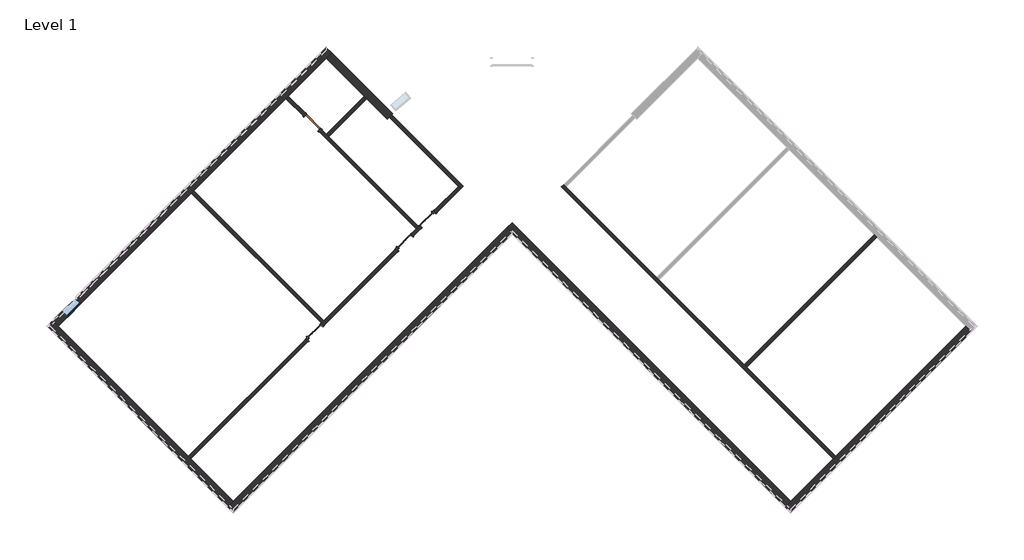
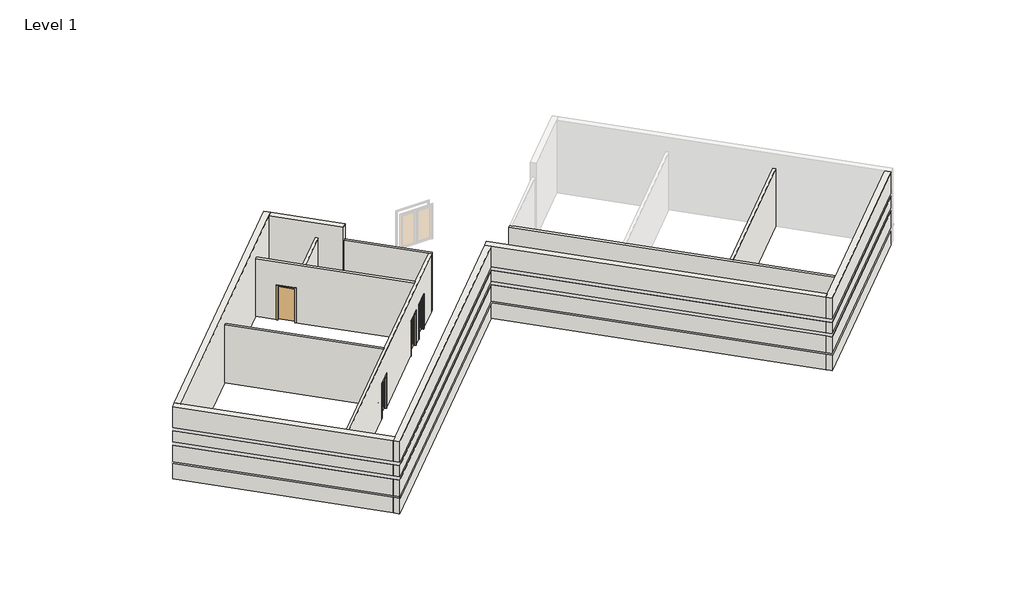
# One storey, part 1 of 2: 13 walls, 4 doors, 1 window.
"""IFC4 building model written with IfcOpenShell, lengths in millimetres."""

from ifc_helpers import new_model, si_unit, frame, origin, origin_with_axes, place, context, project, spatial, polyline, circle_curve, outline, extrude, faceted_brep, transform, mapped, element, save
from ifc_brep_helpers import plane_surface, cylinder_surface, revolved_surface, advanced_brep
from components import door_47956b35, door_87dbb2e6, door_9d26d547, window_15c49d37

model = new_model("IFC4")

# Units and contexts
model_context = context("Model", 3, world=origin())
ifc_project = project(units=[si_unit("LENGTHUNIT", "METRE", prefix="MILLI")], contexts=[model_context])

# Site, building, storey
site = spatial("IfcSite", under=ifc_project)
building = spatial("IfcBuilding", under=site)
storey = spatial("IfcBuildingStorey", under=building, Name="Level 1", Elevation=0.0)

# Doors
placement = place(None, origin())
door_shape = door_47956b35(model_context)
element("IfcDoor", 1, ObjectType="Door-Interior-Single-Full Glass-Wood : 36\" x 84\"", at=placement, inside=storey, context=model_context, shape_type="MappedRepresentation", body=[
    mapped(door_shape, transform((-12030.0168896, -1645.2399237, 0.0), x_axis=(0.7071067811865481, 0.7071067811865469, 0.0), y_axis=(-0.7071067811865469, 0.7071067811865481, 0.0), z_axis=(0.0, 0.0, 1.0))),
])
element("IfcDoor", 2, ObjectType="Door-Interior-Single-Full Glass-Wood : 36\" x 84\"", at=placement, inside=storey, context=model_context, shape_type="MappedRepresentation", body=[
    mapped(door_shape, transform((-7861.0507676, 2523.7261982, 0.0), x_axis=(0.7071067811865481, 0.7071067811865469, 0.0), y_axis=(-0.7071067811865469, 0.7071067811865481, 0.0), z_axis=(0.0, 0.0, 1.0))),
])
door_2_shape = door_87dbb2e6(model_context)
element("IfcDoor", 3, ObjectType="Door-Interior-Single-Full Glass-Wood : 36\" x 84\"", at=placement, inside=storey, context=model_context, shape_type="MappedRepresentation", body=[
    mapped(door_2_shape, transform((-6783.4200331, 3601.3569328, 0.0), x_axis=(-0.7071067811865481, -0.7071067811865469, 0.0), y_axis=(0.7071067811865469, -0.7071067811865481, 0.0), z_axis=(0.0, 0.0, 1.0))),
])
door_3_shape = door_9d26d547(model_context)
element("IfcDoor", 4, ObjectType="Door-Single-Panel : 36\" x 84\"", at=placement, inside=storey, context=model_context, shape_type="MappedRepresentation", body=[
    mapped(door_3_shape, transform((-12135.6526812, 8091.4849933, 0.0), x_axis=(0.7071067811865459, -0.7071067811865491, 0.0), y_axis=(0.7071067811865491, 0.7071067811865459, 0.0), z_axis=(0.0, 0.0, 1.0))),
])

# Walls
element("IfcWall", 5, ObjectType="Exterior - Split Face and CMU on Mtl. Stud", at=placement, inside=storey, context=model_context, shape_type="Brep", body=[
    faceted_brep([(18186.1821115, -1357.9895101, 0.0), (12149.2049342, -7394.9666875, 0.0), (12039.1967967, -7504.974825, 0.0), (10063.54045, -9480.6311716, 0.0), (9814.3383427, -9729.833279, 0.0), (9814.3383427, -9729.833279, 1016.0), (9879.4451996, -9664.7264221, 1016.0), (9879.4451996, -9664.7264221, 1085.85), (9814.3383427, -9729.833279, 1085.85), (9814.3383427, -9729.833279, 2133.6), (9879.4451996, -9664.7264221, 2133.6), (9879.4451996, -9664.7264221, 2336.8), (9814.3383427, -9729.833279, 2336.8), (9814.3383427, -9729.833279, 3048.0), (9879.4451996, -9664.7264221, 3048.0), (9879.4451996, -9664.7264221, 3251.2), (9814.3383427, -9729.833279, 3251.2), (9814.3383427, -9729.833279, 4572.0), (10063.54045, -9480.6311716, 4572.0), (18186.1821115, -1357.9895101, 4572.0), (18435.3842189, -1607.1916175, 4572.0), (10063.54045, -9979.0353863, 4572.0), (10063.54045, -9979.0353863, 3251.2), (18435.3842189, -1607.1916175, 3251.2), (10063.54045, -9979.0353863, 0.0), (18435.3842189, -1607.1916175, 0.0), (18435.3842189, -1607.1916175, 1016.0), (10063.54045, -9979.0353863, 1016.0), (10063.54045, -9979.0353863, 1085.85), (18435.3842189, -1607.1916175, 1085.85), (18435.3842189, -1607.1916175, 2133.6), (10063.54045, -9979.0353863, 2133.6), (10063.54045, -9979.0353863, 2336.8), (18435.3842189, -1607.1916175, 2336.8), (18435.3842189, -1607.1916175, 3048.0), (10063.54045, -9979.0353863, 3048.0), (9998.4335932, -9913.9285294, 0.0), (18370.277362, -1542.0847606, 3251.2), (18370.277362, -1542.0847606, 3048.0), (18370.277362, -1542.0847606, 2336.8), (18370.277362, -1542.0847606, 2133.6), (18370.277362, -1542.0847606, 1085.85), (18370.277362, -1542.0847606, 1016.0), (18370.277362, -1542.0847606, 0.0), (10063.54045, -9848.8216726, 1085.85), (10063.54045, -9848.8216726, 1016.0), (10063.54045, -9848.8216726, 2133.6), (10063.54045, -9848.8216726, 2336.8), (10063.54045, -9848.8216726, 3048.0), (10063.54045, -9848.8216726, 3251.2)], [[[0, 1, 2, 3, 4, 5, 6, 7, 8, 9, 10, 11, 12, 13, 14, 15, 16, 17, 18, 19]], [[20, 21, 22, 23]], [[24, 25, 26, 27]], [[28, 29, 30, 31]], [[32, 33, 34, 35]], [[19, 18, 17, 21, 20]], [[21, 17, 16, 22]], [[4, 36, 24, 27, 5]], [[8, 28, 31, 9]], [[12, 32, 35, 13]], [[0, 19, 20, 23, 37, 38, 34, 33, 39, 40, 30, 29, 41, 42, 26, 25, 43]], [[4, 3, 2, 1, 0, 43, 36]], [[43, 25, 24, 36]], [[7, 44, 41, 29, 28, 8]], [[42, 45, 6, 5, 27, 26]], [[44, 45, 42, 41]], [[45, 44, 7, 6]], [[40, 46, 10, 9, 31, 30]], [[11, 47, 39, 33, 32, 12]], [[47, 46, 40, 39]], [[46, 47, 11, 10]], [[38, 48, 14, 13, 35, 34]], [[15, 49, 37, 23, 22, 16]], [[49, 48, 38, 37]], [[48, 49, 15, 14]]]),
])
element("IfcWall", 6, ObjectType="Exterior - Split Face and CMU on Mtl. Stud", at=placement, inside=storey, context=model_context, shape_type="Brep", body=[
    faceted_brep([(10063.54045, -9480.6311716, 0.0), (-2868.0283643, 3450.9376427, 0.0), (-2868.0283643, 3450.9376427, 4572.0), (10063.54045, -9480.6311716, 4572.0), (9814.3383427, -9729.833279, 4572.0), (-2868.0283643, 2952.533428, 4572.0), (-3117.2304717, 3201.7355354, 4572.0), (-3117.2304717, 3201.7355354, 0.0), (-2868.0283643, 2952.533428, 0.0), (9814.3383427, -9729.833279, 0.0), (9814.3383427, -9729.833279, 1016.0), (-2868.0283643, 2952.533428, 1016.0), (-2933.1352212, 3017.6402849, 1016.0), (-2933.1352212, 3017.6402849, 1085.85), (-2868.0283643, 2952.533428, 1085.85), (9814.3383427, -9729.833279, 1085.85), (9814.3383427, -9729.833279, 2133.6), (-2868.0283643, 2952.533428, 2133.6), (-2933.1352212, 3017.6402849, 2133.6), (-2933.1352212, 3017.6402849, 2336.8), (-2868.0283643, 2952.533428, 2336.8), (9814.3383427, -9729.833279, 2336.8), (9814.3383427, -9729.833279, 3048.0), (-2868.0283643, 2952.533428, 3048.0), (-2933.1352212, 3017.6402849, 3048.0), (-2933.1352212, 3017.6402849, 3251.2), (-2868.0283643, 2952.533428, 3251.2), (9814.3383427, -9729.833279, 3251.2), (-3052.1236148, 3266.8423923, 0.0), (9879.4451996, -9664.7264221, 3251.2), (9879.4451996, -9664.7264221, 3048.0), (9879.4451996, -9664.7264221, 2336.8), (9879.4451996, -9664.7264221, 2133.6), (9879.4451996, -9664.7264221, 1085.85), (9879.4451996, -9664.7264221, 1016.0), (9879.4451996, -9664.7264221, 0.0), (-2868.0283643, 3082.7471418, 1085.85), (-2868.0283643, 3082.7471418, 1016.0), (-2868.0283643, 3082.7471418, 2133.6), (-2868.0283643, 3082.7471418, 2336.8), (-2868.0283643, 3082.7471418, 3048.0), (-2868.0283643, 3082.7471418, 3251.2)], [[[0, 1, 2, 3]], [[4, 5, 6, 7, 8, 9, 10, 11, 12, 13, 14, 15, 16, 17, 18, 19, 20, 21, 22, 23, 24, 25, 26, 27]], [[3, 2, 6, 5, 4]], [[2, 1, 28, 7, 6]], [[0, 3, 4, 27, 29, 30, 22, 21, 31, 32, 16, 15, 33, 34, 10, 9, 35]], [[1, 0, 35, 28]], [[35, 9, 8, 7, 28]], [[13, 36, 33, 15, 14]], [[34, 37, 12, 11, 10]], [[36, 37, 34, 33]], [[37, 36, 13, 12]], [[32, 38, 18, 17, 16]], [[19, 39, 31, 21, 20]], [[39, 38, 32, 31]], [[38, 39, 19, 18]], [[30, 40, 24, 23, 22]], [[25, 41, 29, 27, 26]], [[41, 40, 30, 29]], [[40, 41, 25, 24]]]),
])
element("IfcWall", 7, ObjectType="Exterior - Split Face and CMU on Mtl. Stud", at=placement, inside=storey, context=model_context, shape_type="Brep", body=[
    faceted_brep([(-3117.2304717, 3201.7355354, 4572.0), (-15799.5971786, -9480.6311716, 4572.0), (-16048.799286, -9729.833279, 4572.0), (-15799.5971786, -9979.0353863, 4572.0), (-2868.0283643, 2952.533428, 4572.0), (-3117.2304717, 3201.7355354, 0.0), (-15799.5971786, -9480.6311716, 0.0), (-16048.799286, -9729.833279, 0.0), (-16048.799286, -9729.833279, 1016.0), (-15983.6924291, -9664.7264221, 1016.0), (-15983.6924291, -9664.7264221, 1085.85), (-16048.799286, -9729.833279, 1085.85), (-16048.799286, -9729.833279, 2133.6), (-15983.6924291, -9664.7264221, 2133.6), (-15983.6924291, -9664.7264221, 2336.8), (-16048.799286, -9729.833279, 2336.8), (-16048.799286, -9729.833279, 3048.0), (-15983.6924291, -9664.7264221, 3048.0), (-15983.6924291, -9664.7264221, 3251.2), (-16048.799286, -9729.833279, 3251.2), (-15799.5971786, -9979.0353863, 3251.2), (-2868.0283643, 2952.533428, 3251.2), (-15799.5971786, -9979.0353863, 0.0), (-2868.0283643, 2952.533428, 0.0), (-2868.0283643, 2952.533428, 1016.0), (-15799.5971786, -9979.0353863, 1016.0), (-15799.5971786, -9979.0353863, 1085.85), (-2868.0283643, 2952.533428, 1085.85), (-2868.0283643, 2952.533428, 2133.6), (-15799.5971786, -9979.0353863, 2133.6), (-15799.5971786, -9979.0353863, 2336.8), (-2868.0283643, 2952.533428, 2336.8), (-2868.0283643, 2952.533428, 3048.0), (-15799.5971786, -9979.0353863, 3048.0), (-2933.1352212, 3017.6402849, 0.0), (-15864.7040355, -9913.9285294, 0.0), (-2933.1352212, 3017.6402849, 3251.2), (-2933.1352212, 3017.6402849, 3048.0), (-2933.1352212, 3017.6402849, 2336.8), (-2933.1352212, 3017.6402849, 2133.6), (-2933.1352212, 3017.6402849, 1085.85), (-2933.1352212, 3017.6402849, 1016.0), (-15799.5971786, -9848.8216726, 1085.85), (-15799.5971786, -9848.8216726, 1016.0), (-15799.5971786, -9848.8216726, 2133.6), (-15799.5971786, -9848.8216726, 2336.8), (-15799.5971786, -9848.8216726, 3048.0), (-15799.5971786, -9848.8216726, 3251.2)], [[[0, 1, 2, 3, 4]], [[5, 6, 7, 8, 9, 10, 11, 12, 13, 14, 15, 16, 17, 18, 19, 2, 1, 0]], [[4, 3, 20, 21]], [[22, 23, 24, 25]], [[26, 27, 28, 29]], [[30, 31, 32, 33]], [[7, 6, 5, 34, 35]], [[5, 0, 4, 21, 36, 37, 32, 31, 38, 39, 28, 27, 40, 41, 24, 23, 34]], [[23, 22, 35, 34]], [[3, 2, 19, 20]], [[7, 35, 22, 25, 8]], [[11, 26, 29, 12]], [[15, 30, 33, 16]], [[10, 42, 40, 27, 26, 11]], [[41, 43, 9, 8, 25, 24]], [[42, 43, 41, 40]], [[43, 42, 10, 9]], [[39, 44, 13, 12, 29, 28]], [[14, 45, 38, 31, 30, 15]], [[45, 44, 39, 38]], [[44, 45, 14, 13]], [[37, 46, 17, 16, 33, 32]], [[18, 47, 36, 21, 20, 19]], [[47, 46, 37, 36]], [[46, 47, 18, 17]]]),
])
element("IfcWall", 8, ObjectType="Exterior - Split Face and CMU on Mtl. Stud", at=placement, inside=storey, context=model_context, shape_type="Brep", body=[
    faceted_brep([(-15799.5971786, -9480.6311716, 0.0), (-17775.2535253, -7504.974825, 0.0), (-17885.2616628, -7394.9666875, 0.0), (-23922.2388402, -1357.9895101, 0.0), (-24171.4409475, -1108.7874027, 0.0), (-24171.4409475, -1108.7874027, 1016.0), (-24106.3340906, -1173.8942596, 1016.0), (-24106.3340906, -1173.8942596, 1085.85), (-24171.4409475, -1108.7874027, 1085.85), (-24171.4409475, -1108.7874027, 2133.6), (-24106.3340906, -1173.8942596, 2133.6), (-24106.3340906, -1173.8942596, 2336.8), (-24171.4409475, -1108.7874027, 2336.8), (-24171.4409475, -1108.7874027, 3048.0), (-24106.3340906, -1173.8942596, 3048.0), (-24106.3340906, -1173.8942596, 3251.2), (-24171.4409475, -1108.7874027, 3251.2), (-24171.4409475, -1108.7874027, 4572.0), (-23922.2388402, -1357.9895101, 4572.0), (-15799.5971786, -9480.6311716, 4572.0), (-16048.799286, -9729.833279, 4572.0), (-24420.6430549, -1357.9895101, 4572.0), (-24420.6430549, -1357.9895101, 3251.2), (-16048.799286, -9729.833279, 3251.2), (-24420.6430549, -1357.9895101, 0.0), (-16048.799286, -9729.833279, 0.0), (-16048.799286, -9729.833279, 1016.0), (-24420.6430549, -1357.9895101, 1016.0), (-24420.6430549, -1357.9895101, 1085.85), (-16048.799286, -9729.833279, 1085.85), (-16048.799286, -9729.833279, 2133.6), (-24420.6430549, -1357.9895101, 2133.6), (-24420.6430549, -1357.9895101, 2336.8), (-16048.799286, -9729.833279, 2336.8), (-16048.799286, -9729.833279, 3048.0), (-24420.6430549, -1357.9895101, 3048.0), (-24355.536198, -1292.8826532, 0.0), (-15983.6924291, -9664.7264221, 3251.2), (-15983.6924291, -9664.7264221, 3048.0), (-15983.6924291, -9664.7264221, 2336.8), (-15983.6924291, -9664.7264221, 2133.6), (-15983.6924291, -9664.7264221, 1085.85), (-15983.6924291, -9664.7264221, 1016.0), (-15983.6924291, -9664.7264221, 0.0), (-24290.4293411, -1357.9895101, 1085.85), (-24290.4293411, -1357.9895101, 1016.0), (-24290.4293411, -1357.9895101, 2133.6), (-24290.4293411, -1357.9895101, 2336.8), (-24290.4293411, -1357.9895101, 3048.0), (-24290.4293411, -1357.9895101, 3251.2)], [[[0, 1, 2, 3, 4, 5, 6, 7, 8, 9, 10, 11, 12, 13, 14, 15, 16, 17, 18, 19]], [[20, 21, 22, 23]], [[24, 25, 26, 27]], [[28, 29, 30, 31]], [[32, 33, 34, 35]], [[19, 18, 17, 21, 20]], [[21, 17, 16, 22]], [[4, 36, 24, 27, 5]], [[8, 28, 31, 9]], [[12, 32, 35, 13]], [[0, 19, 20, 23, 37, 38, 34, 33, 39, 40, 30, 29, 41, 42, 26, 25, 43]], [[4, 3, 2, 1, 0, 43, 36]], [[43, 25, 24, 36]], [[7, 44, 41, 29, 28, 8]], [[42, 45, 6, 5, 27, 26]], [[44, 45, 42, 41]], [[45, 44, 7, 6]], [[40, 46, 10, 9, 31, 30]], [[11, 47, 39, 33, 32, 12]], [[47, 46, 40, 39]], [[46, 47, 11, 10]], [[38, 48, 14, 13, 35, 34]], [[15, 49, 37, 23, 22, 16]], [[49, 48, 38, 37]], [[48, 49, 15, 14]]]),
])
element("IfcWall", 9, ObjectType="Exterior - Split Face and CMU on Mtl. Stud", at=placement, inside=storey, context=model_context, shape_type="Brep", body=[
    faceted_brep([(-23922.2388402, -1357.9895101, 4572.0), (-11489.0742405, 11075.1750895, 4572.0), (-11239.8721332, 11324.3771969, 4572.0), (-11489.0742405, 11573.5793042, 4572.0), (-24171.4409475, -1108.7874027, 4572.0), (-23922.2388402, -1357.9895101, 0.0), (-17743.7048466, 4820.5444835, 0.0), (-17633.6967091, 4930.552621, 0.0), (-13359.2125777, 9205.0367523, 0.0), (-13249.2044403, 9315.0448898, 0.0), (-11489.0742405, 11075.1750895, 0.0), (-11239.8721332, 11324.3771969, 0.0), (-11239.8721332, 11324.3771969, 1016.0), (-11304.9789901, 11259.27034, 1016.0), (-11304.9789901, 11259.27034, 1085.85), (-11239.8721332, 11324.3771969, 1085.85), (-11239.8721332, 11324.3771969, 2133.6), (-11304.9789901, 11259.27034, 2133.6), (-11304.9789901, 11259.27034, 2336.8), (-11239.8721332, 11324.3771969, 2336.8), (-11239.8721332, 11324.3771969, 3048.0), (-11304.9789901, 11259.27034, 3048.0), (-11304.9789901, 11259.27034, 3251.2), (-11239.8721332, 11324.3771969, 3251.2), (-23508.0245266, -943.7751965, 914.4), (-23508.0245266, -943.7751965, 2133.6), (-22861.4460859, -297.1967558, 2133.6), (-22861.4460859, -297.1967558, 914.4), (-11489.0742405, 11573.5793042, 3251.2), (-24171.4409475, -1108.7874027, 3251.2), (-11489.0742405, 11573.5793042, 0.0), (-24171.4409475, -1108.7874027, 0.0), (-24171.4409475, -1108.7874027, 1016.0), (-23757.2266339, -694.5730891, 1016.0), (-23757.2266339, -694.5730891, 914.4), (-23110.6481932, -47.9946484, 914.4), (-23110.6481932, -47.9946484, 1016.0), (-11489.0742405, 11573.5793042, 1016.0), (-23110.6481932, -47.9946484, 2133.6), (-23757.2266339, -694.5730891, 2133.6), (-23757.2266339, -694.5730891, 2336.8), (-24171.4409475, -1108.7874027, 2336.8), (-24171.4409475, -1108.7874027, 3048.0), (-11489.0742405, 11573.5793042, 3048.0), (-11489.0742405, 11573.5793042, 2336.8), (-23110.6481932, -47.9946484, 2336.8), (-23757.2266339, -694.5730891, 1085.85), (-24171.4409475, -1108.7874027, 1085.85), (-24171.4409475, -1108.7874027, 2133.6), (-23110.6481932, -47.9946484, 1085.85), (-11489.0742405, 11573.5793042, 2133.6), (-11489.0742405, 11573.5793042, 1085.85), (-24106.3340906, -1173.8942596, 0.0), (-11423.9673837, 11508.4724474, 0.0), (-24106.3340906, -1173.8942596, 3251.2), (-24106.3340906, -1173.8942596, 3048.0), (-24106.3340906, -1173.8942596, 2336.8), (-24106.3340906, -1173.8942596, 2133.6), (-24106.3340906, -1173.8942596, 1085.85), (-24106.3340906, -1173.8942596, 1016.0), (-23692.119777, -759.679946, 1016.0), (-23692.119777, -759.679946, 1085.85), (-23692.119777, -759.679946, 2133.6), (-23045.5413363, -113.1015053, 2133.6), (-23045.5413363, -113.1015053, 1085.85), (-23045.5413363, -113.1015053, 1016.0), (-11489.0742405, 11443.3655905, 1085.85), (-11489.0742405, 11443.3655905, 1016.0), (-23692.119777, -759.679946, 2133.6), (-23692.119777, -759.679946, 2336.8), (-23045.5413363, -113.1015053, 2133.6), (-23045.5413363, -113.1015053, 2336.8), (-11489.0742405, 11443.3655905, 2133.6), (-11489.0742405, 11443.3655905, 2336.8), (-11489.0742405, 11443.3655905, 3048.0), (-11489.0742405, 11443.3655905, 3251.2)], [[[0, 1, 2, 3, 4]], [[5, 6, 7, 8, 9, 10, 11, 12, 13, 14, 15, 16, 17, 18, 19, 20, 21, 22, 23, 2, 1, 0], [24, 25, 26, 27]], [[4, 3, 28, 29]], [[30, 31, 32, 33, 34, 35, 36, 37]], [[38, 39, 40, 41, 42, 43, 44, 45]], [[39, 46, 47, 48]], [[49, 38, 50, 51]], [[11, 10, 9, 8, 7, 6, 5, 52, 53]], [[5, 0, 4, 29, 54, 55, 42, 41, 56, 57, 48, 47, 58, 59, 32, 31, 52]], [[31, 30, 53, 52]], [[3, 2, 23, 28]], [[11, 53, 30, 37, 12]], [[15, 51, 50, 16]], [[19, 44, 43, 20]], [[25, 24, 34, 33, 60, 61, 46, 39, 62]], [[35, 34, 24, 27]], [[27, 26, 63, 38, 49, 64, 65, 36, 35]], [[39, 38, 63, 26, 25, 62]], [[61, 58, 47, 46]], [[59, 60, 33, 32]], [[58, 61, 60, 59]], [[66, 64, 49, 51, 15, 14]], [[65, 67, 13, 12, 37, 36]], [[64, 66, 67, 65]], [[67, 66, 14, 13]], [[68, 39, 48, 57]], [[40, 69, 56, 41]], [[39, 68, 69, 40]], [[69, 68, 57, 56]], [[70, 38, 45, 71]], [[38, 70, 72, 17, 16, 50]], [[70, 71, 73, 72]], [[71, 45, 44, 19, 18, 73]], [[72, 73, 18, 17]], [[55, 74, 21, 20, 43, 42]], [[22, 75, 54, 29, 28, 23]], [[75, 74, 55, 54]], [[74, 75, 22, 21]]]),
])
element("IfcWall", 10, ObjectType="Exterior - Split Face and CMU on Mtl. Stud", at=placement, inside=storey, context=model_context, shape_type="AdvancedBrep", body=[
    advanced_brep(
    [(-11489.0742405, 11075.1750895, 0.0), (-9728.9440408, 9315.0448898, 0.0), (-9618.9359033, 9205.0367523, 0.0), (-8658.0122729, 8244.1131219, 0.0), (-8658.0122729, 8244.1131219, 4572.0), (-11489.0742405, 11075.1750895, 4572.0), (-11239.8721332, 11324.3771969, 4572.0), (-8662.486224, 8746.9912878, 4572.0), (-8413.2817722, 8497.7868359, 4572.0), (-8413.2817722, 8497.7868359, 0.0), (-8662.486224, 8746.9912878, 0.0), (-11239.8721332, 11324.3771969, 0.0), (-11239.8721332, 11324.3771969, 1016.0), (-8662.486224, 8746.9912878, 1016.0), (-8597.3787742, 8681.8838379, 1016.0), (-8597.3787742, 8681.8838379, 1085.85), (-8662.486224, 8746.9912878, 1085.85), (-11239.8721332, 11324.3771969, 1085.85), (-11239.8721332, 11324.3771969, 2133.6), (-8662.486224, 8746.9912878, 2133.6), (-8597.3787742, 8681.8838379, 2133.6), (-8597.3787742, 8681.8838379, 2336.8), (-8662.486224, 8746.9912878, 2336.8), (-11239.8721332, 11324.3771969, 2336.8), (-11239.8721332, 11324.3771969, 3048.0), (-8662.486224, 8746.9912878, 3048.0), (-8597.3787742, 8681.8838379, 3048.0), (-8597.3787742, 8681.8838379, 3251.2), (-8662.486224, 8746.9912878, 3251.2), (-11239.8721332, 11324.3771969, 3251.2), (-8478.2967797, 8432.5881297, 0.0), (-11304.9789901, 11259.27034, 3251.2), (-11304.9789901, 11259.27034, 3048.0), (-11304.9789901, 11259.27034, 2336.8), (-11304.9789901, 11259.27034, 2133.6), (-11304.9789901, 11259.27034, 1085.85), (-11304.9789901, 11259.27034, 1016.0), (-11304.9789901, 11259.27034, 0.0), (-8662.3967205, 8616.6880705, 1085.85), (-8662.3967205, 8616.6880705, 1016.0), (-8662.3967205, 8616.6880705, 2336.8), (-8662.3967205, 8616.6880705, 2133.6), (-8662.3967205, 8616.6880705, 3251.2), (-8662.3967205, 8616.6880705, 3048.0)],
    [
        (0, 1),
        (1, 2),
        (2, 3),
        (3, 4),
        (4, 5),
        (5, 0),
        (6, 7),
        (7, 8),
        (8, 9),
        (9, 10),
        (10, 11),
        (11, 12),
        (12, 13),
        (13, 14),
        (14, 15),
        (15, 16),
        (16, 17),
        (17, 18),
        (18, 19),
        (19, 20),
        (20, 21),
        (21, 22),
        (22, 23),
        (23, 24),
        (24, 25),
        (25, 26),
        (26, 27),
        (27, 28),
        (28, 29),
        (29, 6),
        (4, 8, circle_curve(frame((-2868.0283643, 2903.1420194, 4572.0), z_axis=(0.0, 0.0, -1.0), x_axis=(1.0, 0.0, 0.0)), 7877.175)),
        (6, 5),
        (3, 30, circle_curve(frame((-2868.0283643, 2903.1420194, 0.0), z_axis=(0.0, 0.0, -1.0), x_axis=(1.0, 0.0, 0.0)), 7877.175)),
        (30, 9, circle_curve(frame((-2868.0283643, 2903.1420194, 0.0), z_axis=(0.0, 0.0, -1.0), x_axis=(1.0, 0.0, 0.0)), 7877.175)),
        (29, 31),
        (31, 32),
        (32, 24),
        (23, 33),
        (33, 34),
        (34, 18),
        (17, 35),
        (35, 36),
        (36, 12),
        (11, 37),
        (37, 0),
        (37, 30),
        (38, 39),
        (39, 36),
        (35, 38),
        (15, 38, circle_curve(frame((-2868.0283643, 2903.1420194, 1085.85), z_axis=(0.0, 0.0, 1.0), x_axis=(-0.7040995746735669, 0.7101012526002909, 0.0)), 8137.525)),
        (39, 14, circle_curve(frame((-2868.0283643, 2903.1420194, 1016.0), z_axis=(0.0, 0.0, -1.0), x_axis=(-0.7040995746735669, 0.7101012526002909, 0.0)), 8137.525)),
        (40, 41),
        (41, 34),
        (33, 40),
        (41, 20, circle_curve(frame((-2868.0283643, 2903.1420194, 2133.6), z_axis=(0.0, 0.0, -1.0), x_axis=(-0.7120553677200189, 0.7021233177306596, 0.0)), 8137.525)),
        (40, 21, circle_curve(frame((-2868.0283643, 2903.1420194, 2336.8), z_axis=(0.0, 0.0, -1.0), x_axis=(-0.7120553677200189, 0.7021233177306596, 0.0)), 8137.525)),
        (42, 43),
        (43, 32),
        (31, 42),
        (43, 26, circle_curve(frame((-2868.0283643, 2903.1420194, 3048.0), z_axis=(0.0, 0.0, -1.0), x_axis=(-0.7120553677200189, 0.7021233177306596, 0.0)), 8137.525)),
        (42, 27, circle_curve(frame((-2868.0283643, 2903.1420194, 3251.2), z_axis=(0.0, 0.0, -1.0), x_axis=(-0.7120553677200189, 0.7021233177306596, 0.0)), 8137.525)),
    ],
    [
        plane_surface(frame((-11738.2763479, 11324.3771969, 0.0), z_axis=(-0.7071067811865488, -0.7071067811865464, 0.0), x_axis=(0.7071067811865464, -0.7071067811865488, 0.0))),
        plane_surface(frame((-11489.0742405, 11573.5793042, 0.0), z_axis=(0.7071067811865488, 0.7071067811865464, 0.0), x_axis=(-0.7071067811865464, 0.7071067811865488, 0.0))),
        plane_surface(frame((-8786.2632499, 8372.3640989, 4572.0), z_axis=(0.0, 0.0, 1.0), x_axis=(0.7071067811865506, 0.7071067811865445, 0.0))),
        revolved_surface(polyline([(5009.146635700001, 2903.1420194, 0.0), (5009.146635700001, 2903.1420194, 4572.0)]), (-2868.0283643, 2903.1420194, 0.0), (0.0, 0.0, -1.0)),
        plane_surface(frame((-24171.4409475, -1607.1916175, 0.0), z_axis=(-0.7071067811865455, 0.7071067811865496, 0.0), x_axis=(0.7071067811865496, 0.7071067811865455, 0.0))),
        plane_surface(frame((-11613.6752942, 11199.7761432, 0.0), z_axis=(0.0, 0.0, -1.0000000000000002), x_axis=(0.7071067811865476, 0.7071067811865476, 0.0))),
        plane_surface(frame((0.0, 0.0, 0.0), z_axis=(0.0, 0.0, -1.0), x_axis=(1.0, 0.0, 0.0))),
        plane_surface(frame((-11489.0742405, 11443.3655905, 1016.0), z_axis=(0.7071067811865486, 0.7071067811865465, 0.0), x_axis=(0.7071067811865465, -0.7071067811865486, 0.0))),
        plane_surface(frame((-2868.0283643, 2903.1420194, 1085.85), z_axis=(0.0, 0.0, -1.0), x_axis=(-0.7040995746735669, 0.7101012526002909, 0.0))),
        plane_surface(frame((-2868.0283643, 2903.1420194, 1016.0), z_axis=(0.0, 0.0, 1.0), x_axis=(-0.7040995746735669, 0.7101012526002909, 0.0))),
        cylinder_surface(frame((-2868.0283643, 2903.1420194, 1016.0), z_axis=(0.0, 0.0, -1.0), x_axis=(-0.7040995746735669, 0.7101012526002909, 0.0)), 8137.525),
        plane_surface(frame((-11489.0742405, 11443.3655905, 2133.6), z_axis=(0.7071067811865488, 0.7071067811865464, 0.0), x_axis=(0.7071067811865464, -0.7071067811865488, 0.0))),
        plane_surface(frame((-2868.0283643, 2903.1420194, 2133.6), z_axis=(0.0, 0.0, 1.0), x_axis=(-0.7120553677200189, 0.7021233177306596, 0.0))),
        cylinder_surface(frame((-2868.0283643, 2903.1420194, 2133.6), z_axis=(0.0, 0.0, -1.0), x_axis=(-0.7120553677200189, 0.7021233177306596, 0.0)), 8137.525),
        plane_surface(frame((-2868.0283643, 2903.1420194, 2336.8), z_axis=(0.0, 0.0, -1.0), x_axis=(-0.7120553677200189, 0.7021233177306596, 0.0))),
        plane_surface(frame((-11489.0742405, 11443.3655905, 3048.0), z_axis=(0.7071067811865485, 0.7071067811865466, 0.0), x_axis=(0.7071067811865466, -0.7071067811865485, 0.0))),
        plane_surface(frame((-2868.0283643, 2903.1420194, 3048.0), z_axis=(0.0, 0.0, 1.0), x_axis=(-0.7120553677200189, 0.7021233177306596, 0.0))),
        cylinder_surface(frame((-2868.0283643, 2903.1420194, 3048.0), z_axis=(0.0, 0.0, -1.0), x_axis=(-0.7120553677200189, 0.7021233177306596, 0.0)), 8137.525),
        plane_surface(frame((-2868.0283643, 2903.1420194, 3251.2), z_axis=(0.0, 0.0, -1.0), x_axis=(-0.7120553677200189, 0.7021233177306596, 0.0))),
    ],
    [
        (0, [[1, 2, 3, 4, 5, 6]]),
        (1, [[7, 8, 9, 10, 11, 12, 13, 14, 15, 16, 17, 18, 19, 20, 21, 22, 23, 24, 25, 26, 27, 28, 29, 30]]),
        (2, [[-5, 31, -8, -7, 32]]),
        (3, [[-4, 33, 34, -9, -31]]),
        (4, [[-6, -32, -30, 35, 36, 37, -24, 38, 39, 40, -18, 41, 42, 43, -12, 44, 45]]),
        (5, [[-3, -2, -1, -45, 46, -33]]),
        (6, [[-44, -11, -10, -34, -46]]),
        (7, [[47, 48, -42, 49]]),
        (8, [[50, -49, -41, -17, -16]]),
        (9, [[-48, 51, -14, -13, -43]]),
        (10, [[-47, -50, -15, -51]]),
        (11, [[52, 53, -39, 54]]),
        (12, [[-53, 55, -20, -19, -40]]),
        (13, [[-52, 56, -21, -55]]),
        (14, [[-56, -54, -38, -23, -22]]),
        (15, [[57, 58, -36, 59]]),
        (16, [[-58, 60, -26, -25, -37]]),
        (17, [[-57, 61, -27, -60]]),
        (18, [[-61, -59, -35, -29, -28]]),
    ],
),
])
element("IfcWall", 11, ObjectType="Interior - 6 1/8\" Partition (2-hr)", at=placement, inside=storey, context=model_context, shape_type="Brep", body=[
    faceted_brep([(-17775.2535253, -7504.974825, 0.0), (-17885.2616628, -7394.9666875, 0.0), (-12424.0256269, -1933.7306516, 0.0), (-12314.0174894, -2043.7387891, 0.0), (-5348.5885532, 5141.7064221, 0.0), (-5238.5804157, 5031.6982846, 0.0), (-6384.9211677, 3885.3575326, 0.0), (-6494.9293052, 3995.3656701, 0.0), (-11631.5180242, -1361.2393239, 0.0), (-11741.5261617, -1251.2311864, 0.0), (-11706.7276692, -1216.4326939, 0.0), (-11596.7195317, -1106.4245564, 0.0), (-8255.0595049, 2235.2354703, 0.0), (-8145.0513674, 2125.2273329, 0.0), (-7462.5519022, 2807.7267981, 0.0), (-7572.5600397, 2917.7349356, 0.0), (-7322.2354004, 3168.0595749, 0.0), (-7212.2272629, 3278.0677124, 0.0), (-7177.4287704, 3312.8662049, 0.0), (-7067.4206329, 3202.8580674, 0.0), (-17775.2535253, -7504.974825, 3657.6), (-5238.5804157, 5031.6982846, 3657.6), (-5348.5885532, 5141.7064221, 3657.6), (-7212.2272629, 3278.0677124, 3657.6), (-7322.2354004, 3168.0595749, 3657.6), (-11596.7195317, -1106.4245564, 3657.6), (-11706.7276692, -1216.4326939, 3657.6), (-17885.2616628, -7394.9666875, 3657.6), (-12314.0174894, -2043.7387891, 2159.0), (-11631.5180242, -1361.2393239, 2159.0), (-8145.0513674, 2125.2273329, 2159.0), (-7462.5519022, 2807.7267981, 2159.0), (-7067.4206329, 3202.8580674, 2159.0), (-6384.9211677, 3885.3575326, 2159.0), (-6494.9293052, 3995.3656701, 2159.0), (-7177.4287704, 3312.8662049, 2159.0), (-7572.5600397, 2917.7349356, 2159.0), (-8255.0595049, 2235.2354703, 2159.0), (-11741.5261617, -1251.2311864, 2159.0), (-12424.0256269, -1933.7306516, 2159.0)], [[[0, 1, 2, 3]], [[4, 5, 6, 7]], [[8, 9, 10, 11, 12, 13]], [[14, 15, 16, 17, 18, 19]], [[20, 21, 22, 23, 24, 25, 26, 27]], [[21, 20, 0, 3, 28, 29, 8, 13, 30, 31, 14, 19, 32, 33, 6, 5]], [[27, 26, 25, 24, 23, 22, 4, 7, 34, 35, 18, 17, 16, 15, 36, 37, 12, 11, 10, 9, 38, 39, 2, 1]], [[0, 20, 27, 1]], [[21, 5, 4, 22]], [[29, 38, 9, 8]], [[38, 29, 28, 39]], [[39, 28, 3, 2]], [[31, 36, 15, 14]], [[36, 31, 30, 37]], [[37, 30, 13, 12]], [[35, 32, 19, 18]], [[32, 35, 34, 33]], [[33, 34, 7, 6]]]),
])
element("IfcWall", 12, ObjectType="Interior - 6 1/8\" Partition (2-hr)", at=placement, inside=storey, context=model_context, shape_type="Brep", body=[
    faceted_brep([(-7322.2354004, 3168.0595749, 0.0), (-11867.3675296, 7713.1917042, 0.0), (-11757.3593921, 7823.1998417, 0.0), (-11489.0742405, 7554.9146901, 0.0), (-11379.066103, 7444.9065526, 0.0), (-7212.2272629, 3278.0677124, 0.0), (-12513.9459703, 8359.7701449, 0.0), (-13359.2125777, 9205.0367523, 0.0), (-13249.2044403, 9315.0448898, 0.0), (-12403.9378329, 8469.7782824, 0.0), (-7212.2272629, 3278.0677124, 3657.6), (-11379.066103, 7444.9065526, 3657.6), (-11489.0742405, 7554.9146901, 3657.6), (-13249.2044403, 9315.0448898, 3657.6), (-13359.2125777, 9205.0367523, 3657.6), (-7322.2354004, 3168.0595749, 3657.6), (-11757.3593921, 7823.1998417, 2133.6), (-12403.9378329, 8469.7782824, 2133.6), (-11867.3675296, 7713.1917042, 2133.6), (-12513.9459703, 8359.7701449, 2133.6)], [[[0, 1, 2, 3, 4, 5]], [[6, 7, 8, 9]], [[10, 11, 12, 13, 14, 15]], [[5, 4, 3, 2, 16, 17, 9, 8, 13, 12, 11, 10]], [[18, 1, 0, 15, 14, 7, 6, 19]], [[13, 8, 7, 14]], [[5, 10, 15, 0]], [[16, 2, 1, 18]], [[17, 16, 18, 19]], [[9, 17, 19, 6]]]),
])
element("IfcWall", 13, ObjectType="Interior - 6 1/8\" Partition (2-hr)", at=placement, inside=storey, context=model_context, shape_type="AdvancedBrep", body=[
    advanced_brep(
    [(-5128.5722782, 5141.7064221, 0.0), (-8449.0111375, 8462.1452813, 0.0), (-8449.0111375, 8462.1452813, 3657.6), (-5128.5722782, 5141.7064221, 3657.6), (-5238.5804157, 5031.6982846, 0.0), (-5238.5804157, 5031.6982846, 3657.6), (-5348.5885532, 5141.7064221, 3657.6), (-8557.7157352, 8350.8336041, 3657.6), (-8557.7157352, 8350.8336041, 0.0), (-5348.5885532, 5141.7064221, 0.0)],
    [
        (0, 1),
        (1, 2),
        (2, 3),
        (3, 0),
        (4, 5),
        (5, 6),
        (6, 7),
        (7, 8),
        (8, 9),
        (9, 4),
        (0, 4),
        (8, 1, circle_curve(frame((-2868.0283643, 2903.1420194, 0.0), z_axis=(0.0, 0.0, -1.0), x_axis=(1.0, 0.0, 0.0)), 7877.175)),
        (2, 7, circle_curve(frame((-2868.0283643, 2903.1420194, 3657.6), z_axis=(0.0, 0.0, 1.0), x_axis=(1.0, 0.0, 0.0)), 7877.175)),
        (5, 3),
    ],
    [
        plane_surface(frame((-5183.576347, 5196.7104908, 0.0), z_axis=(0.7071067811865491, 0.7071067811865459, 0.0), x_axis=(-0.7071067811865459, 0.7071067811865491, 0.0))),
        plane_surface(frame((-5293.5844845, 5086.7023533, 0.0), z_axis=(-0.7071067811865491, -0.7071067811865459, 0.0), x_axis=(0.7071067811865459, -0.7071067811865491, 0.0))),
        plane_surface(frame((-5183.576347, 5196.7104908, 0.0), z_axis=(0.0, 0.0, -1.0), x_axis=(-0.707106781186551, -0.7071067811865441, 0.0))),
        plane_surface(frame((-8573.2406241, 8586.374768, 3657.6), z_axis=(0.0, 0.0, 1.0), x_axis=(-0.707106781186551, -0.7071067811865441, 0.0))),
        plane_surface(frame((-17899.854579, -7629.5758786, 0.0), z_axis=(0.7071067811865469, -0.7071067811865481, 0.0), x_axis=(0.7071067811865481, 0.7071067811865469, 0.0))),
        cylinder_surface(frame((-2868.0283643, 2903.1420194, 0.0), z_axis=(0.0, 0.0, -1.0), x_axis=(1.0, 0.0, 0.0)), 7877.175),
    ],
    [
        (0, [[1, 2, 3, 4]]),
        (1, [[5, 6, 7, 8, 9, 10]]),
        (2, [[-1, 11, -10, -9, 12]]),
        (3, [[-3, 13, -7, -6, 14]]),
        (4, [[-4, -14, -5, -11]]),
        (5, [[-2, -12, -8, -13]]),
    ],
),
])
element("IfcWall", 14, ObjectType="Interior - 6 1/8\" Partition (2-hr)", at=placement, inside=storey, context=model_context, shape_type="SweptSolid", body=[
    extrude(outline(polyline([(-11489.0742405, 7554.9146901), (-9728.9440408, 9315.0448898), (-9618.9359033, 9205.0367523), (-11379.066103, 7444.9065526), (-11489.0742405, 7554.9146901)])), origin_with_axes(), (0.0, 0.0, 1.0), 3657.6),
])
element("IfcWall", 15, ObjectType="Interior - 6 1/8\" Partition (2-hr)", at=placement, inside=storey, context=model_context, shape_type="SweptSolid", body=[
    extrude(outline(polyline([(-17633.6967091, 4930.552621), (-11596.7195317, -1106.4245564), (-11706.7276692, -1216.4326939), (-17743.7048466, 4820.5444835), (-17633.6967091, 4930.552621)])), origin_with_axes(), (0.0, 0.0, 1.0), 3657.6),
])
element("IfcWall", 16, ObjectType="Interior - 6 1/8\" Partition (2-hr)", at=placement, inside=storey, context=model_context, shape_type="Brep", body=[
    faceted_brep([(12149.2049342, -7394.9666875, 0.0), (8018.2871185, -3264.0488718, 0.0), (7908.278981, -3154.0407343, 0.0), (3956.9662877, 797.271959, 0.0), (3846.9581502, 907.2800964, 0.0), (-353.5566504, 5107.7948971, 0.0), (-463.5647879, 5217.8030346, 0.0), (-463.5647879, 5217.8030346, 3657.6), (-353.5566504, 5107.7948971, 3657.6), (3846.9581502, 907.2800964, 3657.6), (3956.9662877, 797.271959, 3657.6), (7908.278981, -3154.0407343, 3657.6), (8018.2871185, -3264.0488718, 3657.6), (12149.2049342, -7394.9666875, 3657.6), (12039.1967967, -7504.974825, 0.0), (12039.1967967, -7504.974825, 3657.6), (-573.5729254, 5107.7948971, 3657.6), (-573.5729254, 5107.7948971, 0.0)], [[[0, 1, 2, 3, 4, 5, 6, 7, 8, 9, 10, 11, 12, 13]], [[14, 15, 16, 17]], [[6, 5, 4, 3, 2, 1, 0, 14, 17]], [[13, 12, 11, 10, 9, 8, 7, 16, 15]], [[7, 6, 17, 16]], [[0, 13, 15, 14]]]),
])
element("IfcWall", 17, ObjectType="Interior - 6 1/8\" Partition (2-hr)", at=placement, inside=storey, context=model_context, shape_type="SweptSolid", body=[
    extrude(outline(polyline([(7908.278981, -3154.0407343), (13945.2561584, 2882.9364431), (14055.2642958, 2772.9283056), (8018.2871185, -3264.0488718), (7908.278981, -3154.0407343)])), origin_with_axes(), (0.0, 0.0, 1.0), 3657.6),
])

# Window
window_shape = window_15c49d37(model_context)
element("IfcWindow", 18, ObjectType="Fixed : 36\" x 48\"", at=placement, inside=storey, context=model_context, shape_type="MappedRepresentation", body=[
    mapped(window_shape, transform((-23336.2771283, -522.8256908, 0.0), x_axis=(-0.7071067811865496, -0.7071067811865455, 0.0), y_axis=(0.7071067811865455, -0.7071067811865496, 0.0), z_axis=(0.0, 0.0, 1.0))),
])

save(model, "model.ifc")
